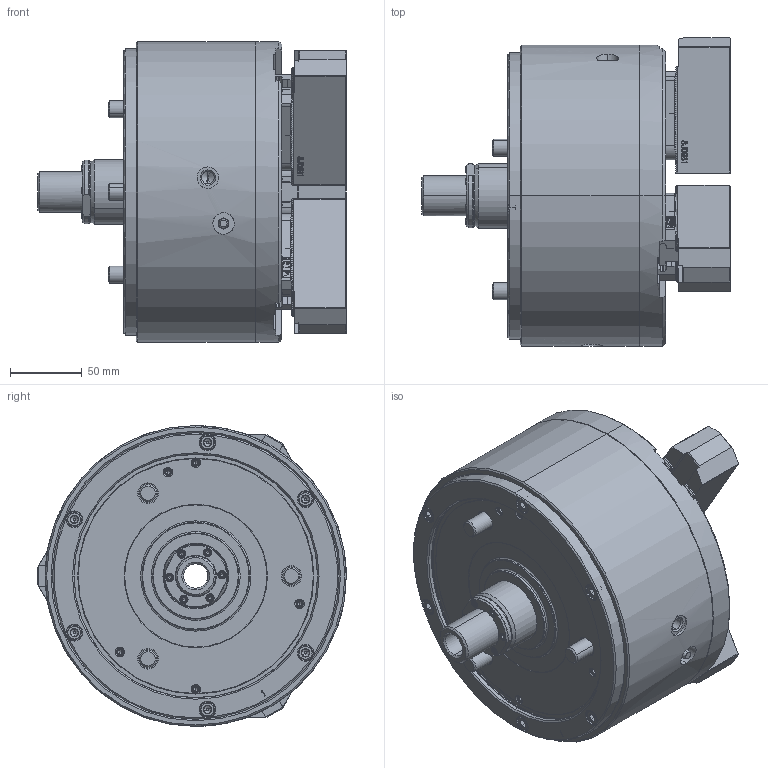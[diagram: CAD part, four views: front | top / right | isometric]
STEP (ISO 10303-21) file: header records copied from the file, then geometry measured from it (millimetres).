
FILE_DESCRIPTION (( 'STEP AP214' ), '1' );
FILE_NAME ('DL208_OC_ID.STEP', '2022-09-07T07:48:10', ( '' ), ( '' ), 'SwSTEP 2.0', 'SolidWorks 2020', '' );
FILE_SCHEMA (( 'AUTOMOTIVE_DESIGN' ));
Length unit declared in the file: millimetre
Products named in the file (5): 61P304291; 結合DL208_OC_ID^DL208; 0030112030; DL208_OC_ID; 61P451466
Assembly tree (13 placements, depth 2):
  DL208_OC_ID
    61P304291  x3
    61P451466  x3
    0030112030  x6
    結合DL208_OC_ID^DL208
Bounding box: 215.1 x 215.26 x 210 mm (x, y, z)
Volume: 4002392.4 mm3; surface area: 330122.1 mm2
Topology: 13 solids, 50 shells, 7385 faces, 20452 edges, 13383 vertices
Faces by surface type: plane 3961, cylinder 1588, bspline 1166, cone 636, torus 34
Entity records: 218380 total; most frequent: CARTESIAN_POINT 81983, ORIENTED_EDGE 31720, DIRECTION 22907, EDGE_CURVE 15860, VERTEX_POINT 10440, LINE 10301, VECTOR 10301, AXIS2_PLACEMENT_3D 6303
